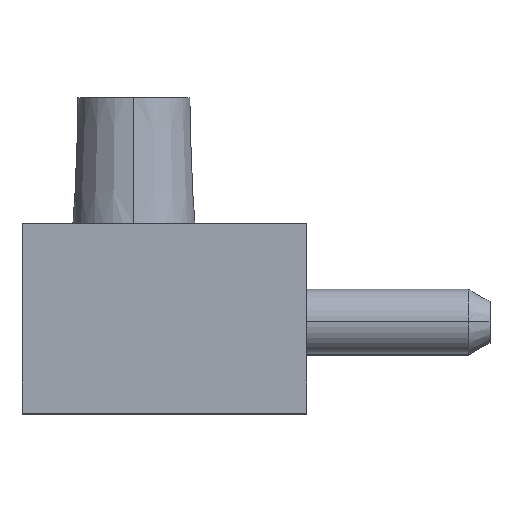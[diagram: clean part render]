
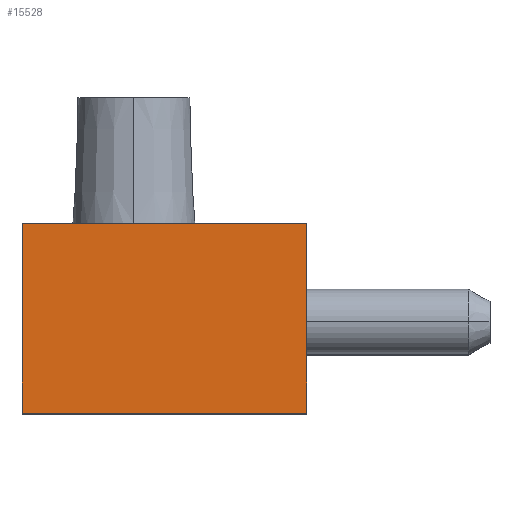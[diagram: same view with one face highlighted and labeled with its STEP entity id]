
A CAD part, top view. The second image highlights one B-rep face of the part: STEP entity #15528.
In plain terms, the highlighted planar face has unit normal (0, 0, 1).
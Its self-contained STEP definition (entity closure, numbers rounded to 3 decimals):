
#1802 = EDGE_CURVE ( 'NONE', #2188, #1811, #13582, .T. ) ;
#1811 = VERTEX_POINT ( 'NONE', #13570 ) ;
#2188 = VERTEX_POINT ( 'NONE', #14268 ) ;
#5667 = LINE ( 'NONE', #5734, #5733 ) ;
#5732 = DIRECTION ( 'NONE',  ( 0., 1., 0. ) ) ;
#5733 = VECTOR ( 'NONE', #5732, 1000. ) ;
#5734 = CARTESIAN_POINT ( 'NONE',  ( 7., 4.65, 0. ) ) ;
#5750 = CARTESIAN_POINT ( 'NONE',  ( 7., 9.3, 0. ) ) ;
#5885 = DIRECTION ( 'NONE',  ( 1., 0., 0. ) ) ;
#5886 = DIRECTION ( 'NONE',  ( 0., 0., 1. ) ) ;
#5887 = CARTESIAN_POINT ( 'NONE',  ( -7., 0., 0. ) ) ;
#5888 = AXIS2_PLACEMENT_3D ( 'NONE', #5887, #5886, #5885 ) ;
#5889 = PLANE ( 'NONE',  #5888 ) ;
#5890 = FACE_OUTER_BOUND ( 'NONE', #15532, .T. ) ;
#6304 = CARTESIAN_POINT ( 'NONE',  ( -7., 9.3, 0. ) ) ;
#6325 = DIRECTION ( 'NONE',  ( -1., 0., 0. ) ) ;
#6326 = VECTOR ( 'NONE', #6325, 1000. ) ;
#6327 = CARTESIAN_POINT ( 'NONE',  ( 0., 9.3, 0. ) ) ;
#6328 = LINE ( 'NONE', #6327, #6326 ) ;
#6362 = DIRECTION ( 'NONE',  ( 0., -1., 0. ) ) ;
#6363 = VECTOR ( 'NONE', #6362, 1000. ) ;
#6364 = CARTESIAN_POINT ( 'NONE',  ( -7., 4.65, 0. ) ) ;
#6370 = LINE ( 'NONE', #6364, #6363 ) ;
#13570 = CARTESIAN_POINT ( 'NONE',  ( 7., 0., 0. ) ) ;
#13579 = DIRECTION ( 'NONE',  ( 1., 0., 0. ) ) ;
#13580 = VECTOR ( 'NONE', #13579, 1000. ) ;
#13581 = CARTESIAN_POINT ( 'NONE',  ( 0., 0., 0. ) ) ;
#13582 = LINE ( 'NONE', #13581, #13580 ) ;
#14268 = CARTESIAN_POINT ( 'NONE',  ( -7., 0., 0. ) ) ;
#14824 = EDGE_CURVE ( 'NONE', #1811, #15439, #5667, .T. ) ;
#15439 = VERTEX_POINT ( 'NONE', #5750 ) ;
#15520 = ORIENTED_EDGE ( 'NONE', *, *, #1802, .T. ) ;
#15528 = ADVANCED_FACE ( 'NONE', ( #5890 ), #5889, .T. ) ;
#15531 = ORIENTED_EDGE ( 'NONE', *, *, #14824, .T. ) ;
#15532 = EDGE_LOOP ( 'NONE', ( #15531, #15876, #15817, #15520 ) ) ;
#15817 = ORIENTED_EDGE ( 'NONE', *, *, #15894, .T. ) ;
#15829 = VERTEX_POINT ( 'NONE', #6304 ) ;
#15876 = ORIENTED_EDGE ( 'NONE', *, *, #15878, .T. ) ;
#15878 = EDGE_CURVE ( 'NONE', #15439, #15829, #6328, .T. ) ;
#15894 = EDGE_CURVE ( 'NONE', #15829, #2188, #6370, .T. ) ;
